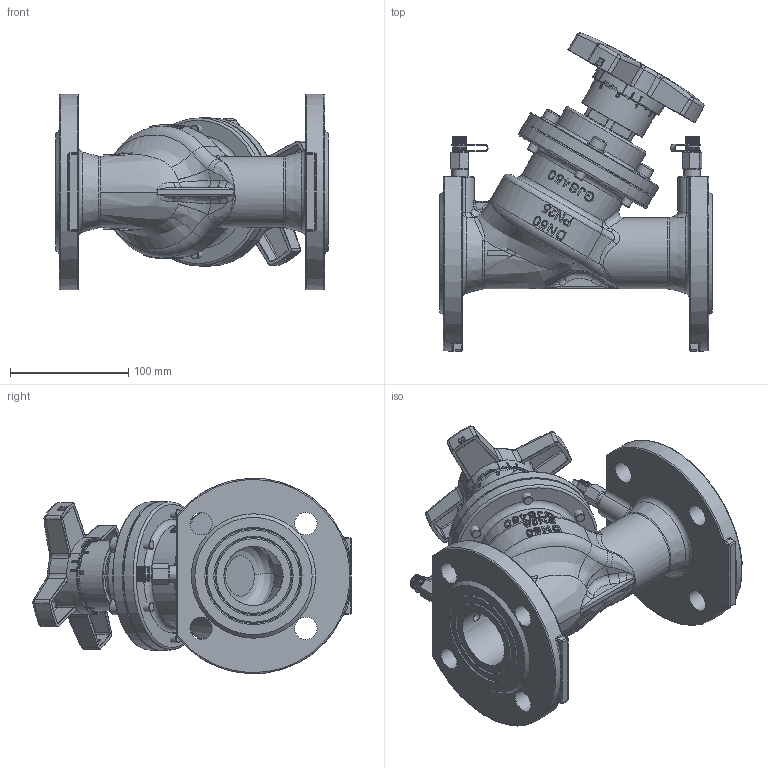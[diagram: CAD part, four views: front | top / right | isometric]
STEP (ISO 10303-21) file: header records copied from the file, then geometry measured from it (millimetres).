
FILE_DESCRIPTION(/* description */ ('STEP AP203'),/* implementation_level */ '2;1');
FILE_NAME(/* name */ 'RSV55 DN50.stp',/* time_stamp */ '2024-09-17T14:57:49+07:00',/* author */ ('Eva'),/* organization */ (''),/* preprocessor_version */ 'ST-DEVELOPER v20',/* originating_system */ 'Autodesk Inventor 2025',/* authorisation */ '');
FILE_SCHEMA (('AUTOMOTIVE_DESIGN { 1 0 10303 214 3 1 1 }'));
Products named in the file (14): DN50 丹弗斯; DN50 阀体 丹弗斯; HW125-TH19-18-00 - 丹弗斯; HW125-TH19-18-02-丹弗斯; HW125-TH19-18-01 丹弗斯; HW125-TH19-18-03-丹弗斯; HW125-TH19-18-05-无圆角; HW125-TH19-18-06-丹弗斯; HW125-TH19-18-07-无圆角; DN50 STEM ASSEM 丹弗斯; DN50 阀盖 丹弗斯; plain washers--product grade c gb_GB_FASTENER_WASHER_SMWC 8; hexagon socket head cap screws gb_GB_FASTENER_SCREWS_HSHCS M8X30-N; TEST  NOZZLE
Assembly tree (24 placements, depth 3):
  DN50 丹弗斯
    DN50 阀体 丹弗斯
    HW125-TH19-18-00 - 丹弗斯
      HW125-TH19-18-02-丹弗斯
      HW125-TH19-18-01 丹弗斯
      HW125-TH19-18-03-丹弗斯
      HW125-TH19-18-05-无圆角
      HW125-TH19-18-06-丹弗斯
      HW125-TH19-18-07-无圆角
    DN50 STEM ASSEM 丹弗斯
    DN50 阀盖 丹弗斯
    plain washers--product grade c gb_GB_FASTENER_WASHER_SMWC 8  x6
    hexagon socket head cap screws gb_GB_FASTENER_SCREWS_HSHCS M8X30-N  x6
    TEST  NOZZLE  x2
Bounding box: 230 x 268.81 x 164.84 mm (x, y, z)
Volume: 1608541.4 mm3; surface area: 368040.9 mm2
Topology: 27 solids, 27 shells, 3619 faces, 8999 edges, 5654 vertices
Faces by surface type: plane 1393, bspline 934, cylinder 751, torus 360, cone 120, sphere 61
Full cylindrical faces by diameter (mm): 0.5 x1, 1.5 x4, 1.6 x4, 4 x2, 5 x3, 5.991 x2, 6 x2, 7 x1, 7.6 x2, 7.8 x2, 7.933 x2, 8 x8, 9 x9, 10 x6, 10.625 x14, 10.907 x4, 11 x1, 12 x19, 13 x6, 14 x2, 15 x1, 16 x7, 18 x2, 19 x9, 21 x1, 22.2 x2, 25 x1, 26 x1, 35 x1, 36.4 x1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
Entity records: 184276 total; most frequent: CARTESIAN_POINT 111419, ORIENTED_EDGE 16146, DIRECTION 13400, EDGE_CURVE 8073, VERTEX_POINT 5102, AXIS2_PLACEMENT_3D 5028, EDGE_LOOP 3559, LINE 3344
